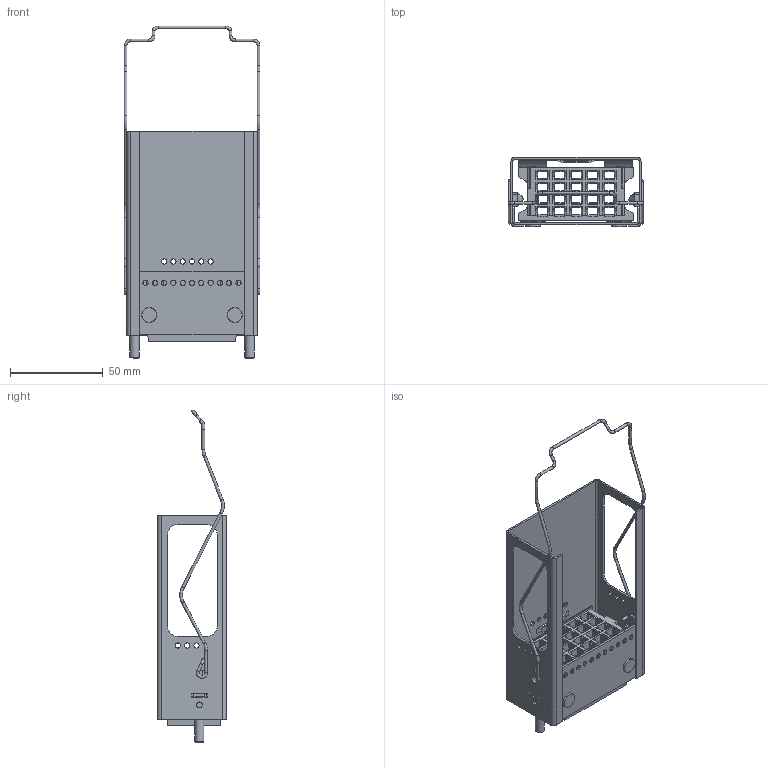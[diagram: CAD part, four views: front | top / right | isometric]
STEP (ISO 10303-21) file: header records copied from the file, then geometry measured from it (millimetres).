
FILE_DESCRIPTION((''),'2;1');
FILE_NAME('Q:\Bibliothèque 3D\Assemblage embase\COR\CORNJ.stp','2008-01-29T12:25:07',('cg'),(''),'Autodesk Inventor 10','Autodesk Inventor 10','');
FILE_SCHEMA(('AUTOMOTIVE_DESIGN { 1 0 10303 214 1 1 1 1 }'));
Length unit declared in the file: millimetre
Products named in the file (10): 153878; 158899; 926895-1; 926895-2; 926895-3; 154249; 908060; 906425; 906120; 151911
Assembly tree (10 placements, depth 4):
  153878
    158899
      926895-1
        926895-2
        926895-3
        154249  x2
      908060
        906425
      906120
      151911
Bounding box: 73 x 37.15 x 178.7 mm (x, y, z)
Volume: 48701.6 mm3; surface area: 62641.9 mm2
Topology: 7 solids, 7 shells, 1219 faces, 3309 edges, 2121 vertices
Faces by surface type: plane 896, cylinder 242, bspline 70, torus 9, cone 2
Full cylindrical faces by diameter (mm): 1.5 x10, 2.1 x2, 3.2 x2, 5 x2, 7.9 x4, 8.2 x2
Entity records: 38598 total; most frequent: CARTESIAN_POINT 8309, ORIENTED_EDGE 6266, DIRECTION 6036, EDGE_CURVE 3133, VECTOR 2506, LINE 2506, VERTEX_POINT 2051, AXIS2_PLACEMENT_3D 1765
